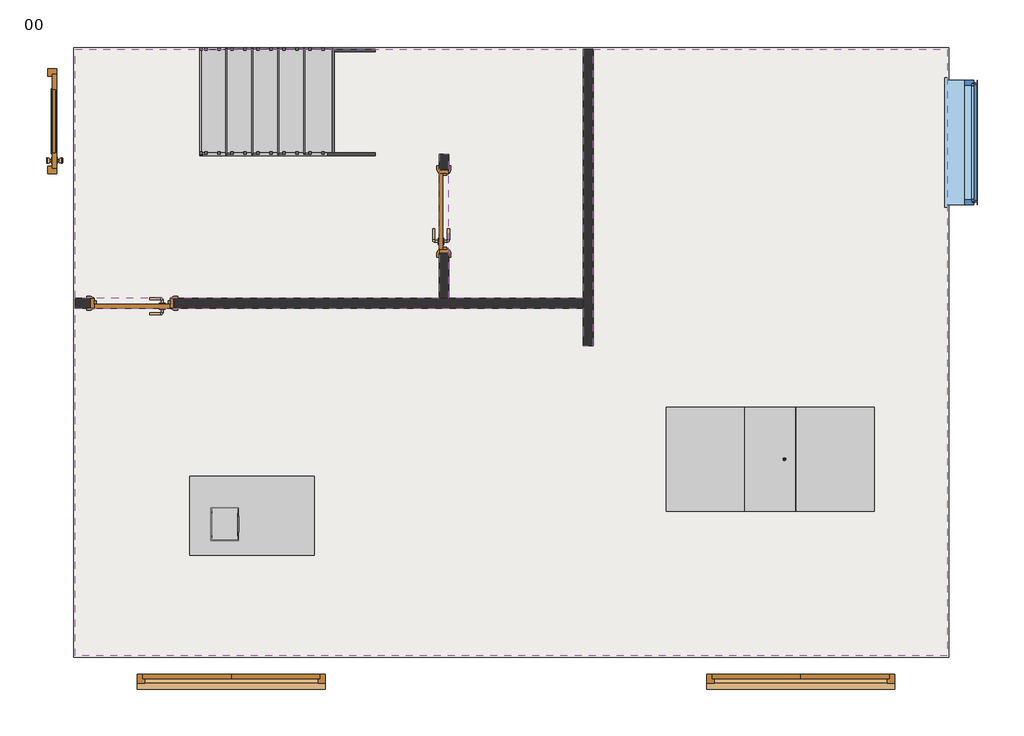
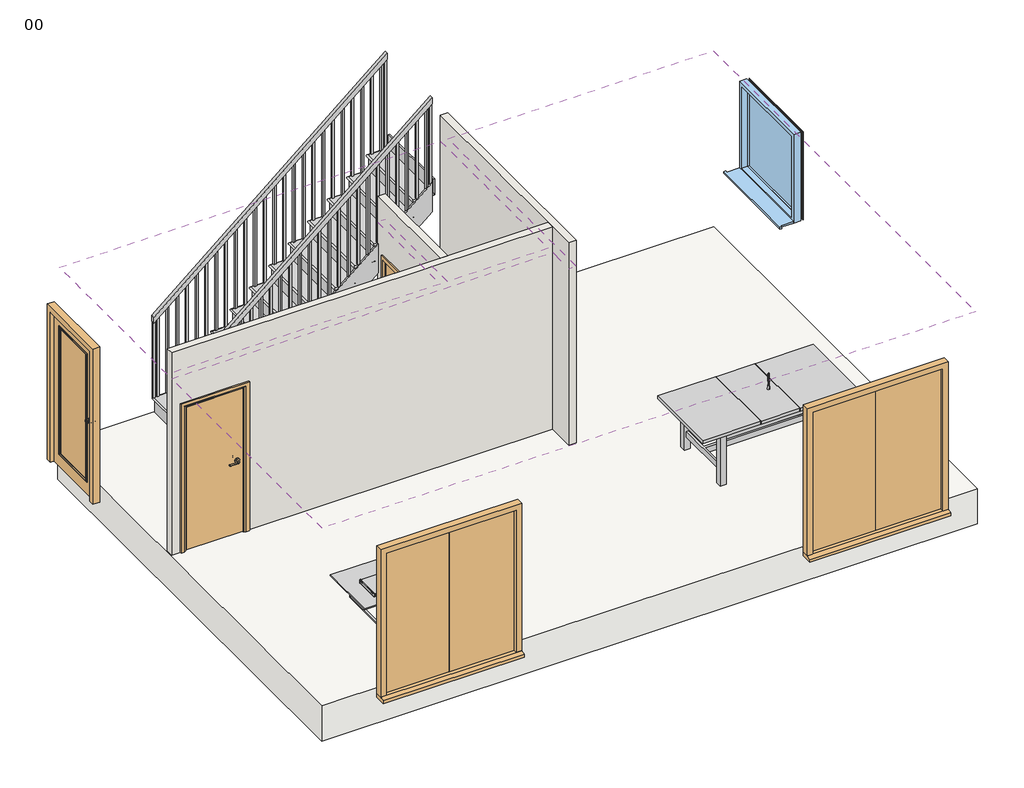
# One storey, incomplete: 5 doors, 3 walls, 2 coverings, 2 furniture elements, 2 members, 2 proxies, 2 railings, 1 slab, 2 other elements.
"""IFC4 building model written with IfcOpenShell, lengths in millimetres."""

from ifc_helpers import new_model, si_unit, frame, origin, place, context, project, spatial, polyline, outline, extrude, faceted_brep, transform, mapped, element, save
from components import specialty_equipment_4ef43544, entourage_dd2dcfdb, concept_extdbl_62_1810_x_2110mm_d6508bf7, extsgl_1_51_1010_x_2110mm_960b48f2, intsgl_1_49_900_x_1989mm_72eeee74, table_coffee_3_1200_x_760mm_c221341c, table_dining_w_chairs_2_table_w_4_seats_080c21d9, railing_1100mm_d219c64c, railing_1100mm_a3e7a364, stair_flight_e1315365, plain_composite_67_1200x_1200mm_dp_top_hung_607cc014

model = new_model("IFC4")

# Units and contexts
model_context = context("Model", 3, world=origin())
ifc_project = project(units=[si_unit("LENGTHUNIT", "METRE", prefix="MILLI")], contexts=[model_context])

# Site, building, storey
site = spatial("IfcSite", under=ifc_project)
building = spatial("IfcBuilding", under=site)
storey = spatial("IfcBuildingStorey", under=building, Name="00", Elevation=150.0)

# Proxies
placement = place(None, origin())
specialty_equipment_shape = specialty_equipment_4ef43544(model_context)
element("IfcBuildingElementProxy", 1, Name="Table Candle : Table Candle", ObjectType="Table Candle : Table Candle", at=placement, inside=storey, context=model_context, shape_type="MappedRepresentation", body=[
    mapped(specialty_equipment_shape, transform((195.9022074, -6577.0249561, 900.0), x_axis=(0.0, -1.0, 0.0), y_axis=(1.0, 0.0, 0.0), z_axis=(0.0, 0.0, 1.0))),
])
entourage_shape = entourage_dd2dcfdb(model_context)
element("IfcBuildingElementProxy", 2, Name="RPC Notebook Computer : RPC Notebook Computer", ObjectType="RPC Notebook Computer : RPC Notebook Computer", at=placement, inside=storey, context=model_context, shape_type="MappedRepresentation", body=[
    mapped(entourage_shape, transform((-5229.8860857, -7205.0822449, 480.0), x_axis=(0.0, -1.0, 0.0), y_axis=(1.0, 0.0, 0.0), z_axis=(0.0, 0.0, 1.0))),
])

# Coverings
element("IfcCovering", 3, ObjectType="Plain", at=placement, inside=storey, context=model_context, shape_type="SweptSolid", body=[
    extrude(outline(polyline([(-1644.8860857, -5482.8572404), (-1644.8860857, -2627.8572404), (1765.1139143, -2627.8572404), (1765.1139143, -8471.4820976), (-6634.8860857, -8471.4820976), (-6634.8860857, -5122.8572404), (-1739.8860857, -5122.8572404), (-1739.8860857, -5482.8572404), (-1644.8860857, -5482.8572404)])), frame((0.0, 0.0, 2550.0), z_axis=(0.0, 0.0, 1.0), x_axis=(1.0, 0.0, 0.0)), (0.0, 0.0, 1.0), 57.0),
])
element("IfcCovering", 4, ObjectType="Plain", at=placement, inside=storey, context=model_context, shape_type="SweptSolid", body=[
    extrude(outline(polyline([(-6634.8860857, -2627.8572404), (-1739.8860857, -2627.8572404), (-1739.8860857, -5027.8572404), (-3034.8860857, -5027.8572404), (-3034.8860857, -3641.0820976), (-3129.8860857, -3641.0820976), (-3129.8860857, -5027.8572404), (-6634.8860857, -5027.8572404), (-6634.8860857, -2627.8572404)])), frame((0.0, 0.0, 2550.0), z_axis=(0.0, 0.0, 1.0), x_axis=(1.0, 0.0, 0.0)), (0.0, 0.0, 1.0), 57.0),
])

# Doors
concept_extdbl_62_1810_x_2110mm_shape = concept_extdbl_62_1810_x_2110mm_d6508bf7(model_context)
element("IfcDoor", 5, ObjectType="Concept ExtDbl : 62 - 1810 x 2110mm", at=placement, inside=storey, context=model_context, shape_type="MappedRepresentation", body=[
    mapped(concept_extdbl_62_1810_x_2110mm_shape, transform((-5129.8860857, -8616.4820976, 150.0), x_axis=(1.0, 0.0, 0.0), y_axis=(0.0, 1.0, 0.0), z_axis=(0.0, 0.0, 1.0))),
])
element("IfcDoor", 6, ObjectType="Concept ExtDbl : 62 - 1810 x 2110mm", at=placement, inside=storey, context=model_context, shape_type="MappedRepresentation", body=[
    mapped(concept_extdbl_62_1810_x_2110mm_shape, transform((352.6139143, -8616.4820976, 150.0), x_axis=(1.0, 0.0, 0.0), y_axis=(0.0, 1.0, 0.0), z_axis=(0.0, 0.0, 1.0))),
])
extsgl_1_51_1010_x_2110mm_shape = extsgl_1_51_1010_x_2110mm_960b48f2(model_context)
element("IfcDoor", 7, ObjectType="ExtSgl (1) : 51 - 1010 x 2110mm", at=placement, inside=storey, context=model_context, shape_type="MappedRepresentation", body=[
    mapped(extsgl_1_51_1010_x_2110mm_shape, transform((-6779.8860857, -3322.8572404, 150.0), x_axis=(0.0, 1.0, 0.0), y_axis=(-1.0, 0.0, 0.0), z_axis=(0.0, 0.0, 1.0))),
])
intsgl_1_49_900_x_1989mm_shape = intsgl_1_49_900_x_1989mm_72eeee74(model_context)
element("IfcDoor", 8, ObjectType="IntSgl (1) : 49 - 900 x 1989mm", at=placement, inside=storey, context=model_context, shape_type="MappedRepresentation", body=[
    mapped(intsgl_1_49_900_x_1989mm_shape, transform((-6084.8860857, -5075.3572404, 150.0), x_axis=(-1.0, 0.0, 0.0), y_axis=(0.0, -1.0, 0.0), z_axis=(0.0, 0.0, 1.0))),
])
element("IfcDoor", 9, ObjectType="IntSgl (1) : 49 - 900 x 1989mm", at=placement, inside=storey, context=model_context, shape_type="MappedRepresentation", body=[
    mapped(intsgl_1_49_900_x_1989mm_shape, transform((-3082.3860857, -4191.0820976, 150.0), x_axis=(0.0, 1.0, 0.0), y_axis=(-1.0, 0.0, 0.0), z_axis=(0.0, 0.0, 1.0))),
])

# Furniture
table_coffee_3_1200_x_760mm_shape = table_coffee_3_1200_x_760mm_c221341c(model_context)
element("IfcFurniture", 10, ObjectType="Table - Coffee (3) : 1200 x 760mm", at=placement, inside=storey, context=model_context, shape_type="MappedRepresentation", body=[
    mapped(table_coffee_3_1200_x_760mm_shape, transform((-5533.619716, -7491.4680722, 150.0), x_axis=(1.0000000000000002, 0.0, 0.0), y_axis=(0.0, 1.0000000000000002, 0.0), z_axis=(0.0, 0.0, 1.0))),
])
table_dining_w_chairs_2_table_w_4_seats_shape = table_dining_w_chairs_2_table_w_4_seats_080c21d9(model_context)
element("IfcFurniture", 11, ObjectType="Table - Dining w chairs (2) : Table w 4 Seats", at=placement, inside=storey, context=model_context, shape_type="MappedRepresentation", body=[
    mapped(table_dining_w_chairs_2_table_w_4_seats_shape, transform((-59.2112484, -6621.3795852, 150.0), x_axis=(1.0, 0.0, 0.0), y_axis=(0.0, 1.0, 0.0), z_axis=(0.0, 0.0, 1.0))),
])

# Members
element("IfcMember", 12, ObjectType="Carriage - Wood - 25 mm Width", at=placement, inside=storey, context=model_context, shape_type="Brep", body=[
    faceted_brep([(-5390.8860857, -2627.8572404, 150.0), (-5161.9157861, -2627.8572404, 150.0), (-5161.9157861, -2652.8572404, 150.0), (-5390.8860857, -2652.8572404, 150.0), (-2434.8860857, -2652.8572404, 2457.4866696), (-2434.8860857, -2627.8572404, 2457.4866696), (-2434.8860857, -2627.8572404, 2658.4615385), (-2434.8860857, -2652.8572404, 2658.4615385), (-5140.8860857, -2627.8572404, 167.7943619), (-4890.8860857, -2627.8572404, 379.3328234), (-4640.8860857, -2627.8572404, 590.8712849), (-4390.8860857, -2627.8572404, 802.4097465), (-4140.8860857, -2627.8572404, 1013.948208), (-3890.8860857, -2627.8572404, 1225.4866696), (-3640.8860857, -2627.8572404, 1437.0251311), (-3390.8860857, -2627.8572404, 1648.5635926), (-3140.8860857, -2627.8572404, 1860.1020542), (-2890.8860857, -2627.8572404, 2071.6405157), (-2640.8860857, -2627.8572404, 2283.1789773), (-5390.8860857, -2627.8572404, 331.5384615), (-5140.8860857, -2627.8572404, 331.5384615), (-5140.8860857, -2627.8572404, 543.0769231), (-4890.8860857, -2627.8572404, 543.0769231), (-4890.8860857, -2627.8572404, 754.6153846), (-4640.8860857, -2627.8572404, 754.6153846), (-4640.8860857, -2627.8572404, 966.1538462), (-4390.8860857, -2627.8572404, 966.1538462), (-4390.8860857, -2627.8572404, 1177.6923077), (-4140.8860857, -2627.8572404, 1177.6923077), (-4140.8860857, -2627.8572404, 1389.2307692), (-3890.8860857, -2627.8572404, 1389.2307692), (-3890.8860857, -2627.8572404, 1600.7692308), (-3640.8860857, -2627.8572404, 1600.7692308), (-3640.8860857, -2627.8572404, 1812.3076923), (-3390.8860857, -2627.8572404, 1812.3076923), (-3390.8860857, -2627.8572404, 2023.8461538), (-3140.8860857, -2627.8572404, 2023.8461538), (-3140.8860857, -2627.8572404, 2235.3846154), (-2890.8860857, -2627.8572404, 2235.3846154), (-2890.8860857, -2627.8572404, 2446.9230769), (-2640.8860857, -2627.8572404, 2446.9230769), (-2640.8860857, -2627.8572404, 2658.4615385), (-2640.8860857, -2652.8572404, 2658.4615385), (-2640.8860857, -2652.8572404, 2446.9230769), (-2890.8860857, -2652.8572404, 2446.9230769), (-2890.8860857, -2652.8572404, 2235.3846154), (-3140.8860857, -2652.8572404, 2235.3846154), (-3140.8860857, -2652.8572404, 2023.8461538), (-3390.8860857, -2652.8572404, 2023.8461538), (-3390.8860857, -2652.8572404, 1812.3076923), (-3640.8860857, -2652.8572404, 1812.3076923), (-3640.8860857, -2652.8572404, 1600.7692308), (-3890.8860857, -2652.8572404, 1600.7692308), (-3890.8860857, -2652.8572404, 1389.2307692), (-4140.8860857, -2652.8572404, 1389.2307692), (-4140.8860857, -2652.8572404, 1177.6923077), (-4390.8860857, -2652.8572404, 1177.6923077), (-4390.8860857, -2652.8572404, 966.1538462), (-4640.8860857, -2652.8572404, 966.1538462), (-4640.8860857, -2652.8572404, 754.6153846), (-4890.8860857, -2652.8572404, 754.6153846), (-4890.8860857, -2652.8572404, 543.0769231), (-5140.8860857, -2652.8572404, 543.0769231), (-5140.8860857, -2652.8572404, 331.5384615), (-5390.8860857, -2652.8572404, 331.5384615)], [[[0, 1, 2, 3]], [[4, 5, 6, 7]], [[5, 4, 2, 1, 8, 9, 10, 11, 12, 13, 14, 15, 16, 17, 18]], [[6, 5, 18, 17, 16, 15, 14, 13, 12, 11, 10, 9, 8, 1, 0, 19, 20, 21, 22, 23, 24, 25, 26, 27, 28, 29, 30, 31, 32, 33, 34, 35, 36, 37, 38, 39, 40, 41]], [[41, 42, 7, 6]], [[4, 7, 42, 43, 44, 45, 46, 47, 48, 49, 50, 51, 52, 53, 54, 55, 56, 57, 58, 59, 60, 61, 62, 63, 64, 3, 2]], [[64, 19, 0, 3]], [[19, 64, 63, 20]], [[20, 63, 62, 21]], [[21, 62, 61, 22]], [[22, 61, 60, 23]], [[23, 60, 59, 24]], [[24, 59, 58, 25]], [[25, 58, 57, 26]], [[26, 57, 56, 27]], [[27, 56, 55, 28]], [[28, 55, 54, 29]], [[29, 54, 53, 30]], [[30, 53, 52, 31]], [[31, 52, 51, 32]], [[32, 51, 50, 33]], [[33, 50, 49, 34]], [[34, 49, 48, 35]], [[35, 48, 47, 36]], [[36, 47, 46, 37]], [[37, 46, 45, 38]], [[38, 45, 44, 39]], [[39, 44, 43, 40]], [[40, 43, 42, 41]]]),
])
element("IfcMember", 13, ObjectType="Stringer - Wood - 25 mm Width", at=placement, inside=storey, context=model_context, shape_type="SweptSolid", body=[
    extrude(outline(polyline([(312.0109703, -5434.8860857), (150.0, -5434.8860857), (150.0, -5161.9157861), (2457.4866696, -2434.8860857), (2850.4725088, -2434.8860857), (312.0109703, -5434.8860857)])), frame((0.0, -3652.8572404, 0.0), z_axis=(0.0, 1.0, 0.0), x_axis=(0.0, 0.0, 1.0)), (0.0, 0.0, 1.0), 25.0),
])

# Railings
railing_1100mm_shape = railing_1100mm_d219c64c(model_context)
element("IfcRailing", 14, ObjectType="1100mm", at=placement, inside=storey, context=model_context, shape_type="MappedRepresentation", body=[
    mapped(railing_1100mm_shape, transform((0.0, 0.0, 0.0), x_axis=(1.0, 0.0, 0.0), y_axis=(0.0, 1.0, 0.0), z_axis=(0.0, 0.0, 1.0))),
])
railing_1100mm_2_shape = railing_1100mm_a3e7a364(model_context)
element("IfcRailing", 15, ObjectType="1100mm", at=placement, inside=storey, context=model_context, shape_type="MappedRepresentation", body=[
    mapped(railing_1100mm_2_shape, transform((0.0, 0.0, 0.0), x_axis=(1.0, 0.0, 0.0), y_axis=(0.0, 1.0, 0.0), z_axis=(0.0, 0.0, 1.0))),
])

# Slab
element("IfcSlab", 16, ObjectType="Ground Bearing Conc - Ins Over", at=placement, inside=storey, context=model_context, shape_type="SweptSolid", body=[
    extrude(outline(polyline([(1777.6139143, -2615.3572404), (1777.6139143, -8483.9820976), (-6647.3860857, -8483.9820976), (-6647.3860857, -2615.3572404), (1777.6139143, -2615.3572404)])), frame((0.0, 0.0, -330.0), z_axis=(0.0, 0.0, 1.0), x_axis=(1.0, 0.0, 0.0)), (0.0, 0.0, 1.0), 480.0),
])

# Stair flight
stair_flight_shape = stair_flight_e1315365(model_context)
element("IfcStairFlight", 17, ObjectType="Wood Steps with 30 mm Tread 25 mm Nosing 19 mm Riser", at=placement, inside=storey, context=model_context, shape_type="MappedRepresentation", body=[
    mapped(stair_flight_shape, transform((0.0, 0.0, 0.0), x_axis=(1.0, 0.0, 0.0), y_axis=(0.0, 1.0, 0.0), z_axis=(0.0, 0.0, 1.0))),
])

# Walls
element("IfcWall", 18, ObjectType="Internal wall", at=placement, inside=storey, context=model_context, shape_type="SweptSolid", body=[
    extrude(outline(polyline([(-5027.8572404, 2900.0), (-3641.0820976, 2900.0), (-3641.0820976, 150.0), (-3786.0820976, 150.0), (-3786.0820976, 2139.0), (-4596.0820976, 2139.0), (-4596.0820976, 150.0), (-5027.8572404, 150.0), (-5027.8572404, 2900.0)])), frame((-3129.8860857, 0.0, 0.0), z_axis=(1.0, 0.0, 0.0), x_axis=(0.0, 1.0, 0.0)), (0.0, 0.0, 1.0), 95.0),
])
element("IfcWall", 19, ObjectType="Internal wall", at=placement, inside=storey, context=model_context, shape_type="Brep", body=[
    faceted_brep([(-6634.8860857, -5027.8572404, 2900.0), (-3129.8860857, -5027.8572404, 2900.0), (-3034.8860857, -5027.8572404, 2900.0), (-1739.8860857, -5027.8572404, 2900.0), (-1739.8860857, -5027.8572404, 150.0), (-3034.8860857, -5027.8572404, 150.0), (-3129.8860857, -5027.8572404, 150.0), (-5679.8860857, -5027.8572404, 150.0), (-5679.8860857, -5027.8572404, 2139.0), (-6489.8860857, -5027.8572404, 2139.0), (-6489.8860857, -5027.8572404, 150.0), (-6634.8860857, -5027.8572404, 150.0), (-1739.8860857, -5122.8572404, 2900.0), (-6634.8860857, -5122.8572404, 2900.0), (-6634.8860857, -5122.8572404, 150.0), (-6489.8860857, -5122.8572404, 150.0), (-6489.8860857, -5122.8572404, 2139.0), (-5679.8860857, -5122.8572404, 2139.0), (-5679.8860857, -5122.8572404, 150.0), (-1739.8860857, -5122.8572404, 150.0)], [[[0, 1, 2, 3, 4, 5, 6, 7, 8, 9, 10, 11]], [[12, 13, 14, 15, 16, 17, 18, 19]], [[14, 11, 10, 15]], [[4, 19, 18, 7, 6, 5]], [[3, 2, 1, 0, 13, 12]], [[0, 11, 14, 13]], [[4, 3, 12, 19]], [[9, 16, 15, 10]], [[16, 9, 8, 17]], [[17, 8, 7, 18]]]),
])
element("IfcWall", 20, ObjectType="Internal wall", at=placement, inside=storey, context=model_context, shape_type="Brep", body=[
    faceted_brep([(-1739.8860857, -2627.8572404, 150.0), (-1739.8860857, -5027.8572404, 150.0), (-1739.8860857, -5122.8572404, 150.0), (-1739.8860857, -5482.8572404, 150.0), (-1739.8860857, -5482.8572404, 2900.0), (-1739.8860857, -5122.8572404, 2900.0), (-1739.8860857, -5027.8572404, 2900.0), (-1739.8860857, -2627.8572404, 2900.0), (-1644.8860857, -2627.8572404, 150.0), (-1644.8860857, -2627.8572404, 2900.0), (-1644.8860857, -5482.8572404, 2900.0), (-1644.8860857, -5482.8572404, 150.0)], [[[0, 1, 2, 3, 4, 5, 6, 7]], [[8, 9, 10, 11]], [[3, 2, 1, 0, 8, 11]], [[4, 3, 11, 10]], [[7, 6, 5, 4, 10, 9]], [[0, 7, 9, 8]]]),
])

# Window
plain_composite_67_1200x_1200mm_dp_top_hung_shape = plain_composite_67_1200x_1200mm_dp_top_hung_607cc014(model_context)
element("IfcWindow", 21, ObjectType="Plain Composite : 67 - 1200x 1200mm dp Top Hung", at=placement, inside=storey, context=model_context, shape_type="MappedRepresentation", body=[
    mapped(plain_composite_67_1200x_1200mm_dp_top_hung_shape, transform((1901.6573464, -3237.8572404, 150.0), x_axis=(0.0, 1.0, 0.0), y_axis=(-1.0, 0.0, 0.0), z_axis=(0.0, 0.0, 1.0))),
])

save(model, "model.ifc")
